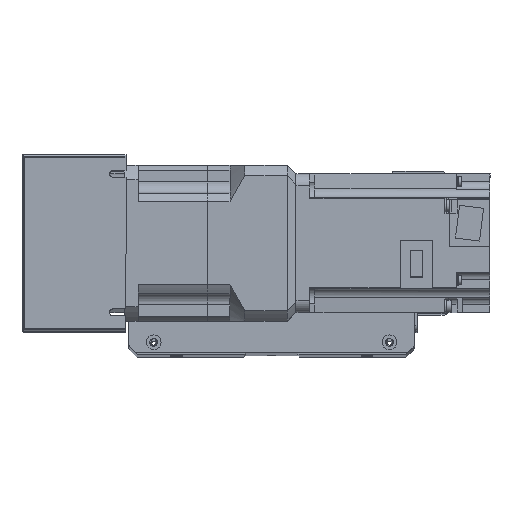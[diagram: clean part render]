
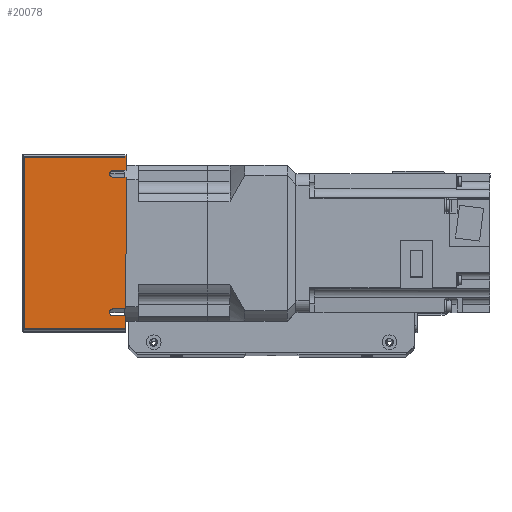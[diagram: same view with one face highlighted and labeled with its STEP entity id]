
A CAD part, top view. The second image highlights one B-rep face of the part: STEP entity #20078.
In plain terms, the highlighted planar face has unit normal (0, 0, 1) as drawn and (-1, 0, 0) by its records, which use the part's own axes.
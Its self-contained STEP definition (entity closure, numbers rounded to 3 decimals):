
#585=PLANE('',#21872);
#1673=LINE('',#32207,#3333);
#1679=LINE('',#32221,#3339);
#1691=LINE('',#32248,#3351);
#1701=LINE('',#32270,#3361);
#1709=LINE('',#32290,#3369);
#1710=LINE('',#32292,#3370);
#1711=LINE('',#32294,#3371);
#1712=LINE('',#32296,#3372);
#1713=LINE('',#32297,#3373);
#1714=LINE('',#32299,#3374);
#3333=VECTOR('',#26064,10.);
#3339=VECTOR('',#26074,10.);
#3351=VECTOR('',#26092,10.);
#3361=VECTOR('',#26106,10.);
#3369=VECTOR('',#26128,10.);
#3370=VECTOR('',#26129,10.);
#3371=VECTOR('',#26130,10.);
#3372=VECTOR('',#26131,10.);
#3373=VECTOR('',#26132,10.);
#3374=VECTOR('',#26135,10.);
#5367=FACE_OUTER_BOUND('',#6807,.T.);
#6807=EDGE_LOOP('',(#16164,#16165,#16166,#16167,#16168,#16169,#16170,#16171,
#16172,#16173,#16174,#16175));
#8243=CIRCLE('',#21867,2.);
#8247=CIRCLE('',#21873,2.);
#9680=VERTEX_POINT('',#32204);
#9681=VERTEX_POINT('',#32206);
#9686=VERTEX_POINT('',#32219);
#9687=VERTEX_POINT('',#32220);
#9698=VERTEX_POINT('',#32246);
#9699=VERTEX_POINT('',#32247);
#9708=VERTEX_POINT('',#32267);
#9709=VERTEX_POINT('',#32269);
#9714=VERTEX_POINT('',#32289);
#9715=VERTEX_POINT('',#32291);
#9716=VERTEX_POINT('',#32293);
#9717=VERTEX_POINT('',#32295);
#12031=EDGE_CURVE('',#9681,#9680,#1673,.T.);
#12037=EDGE_CURVE('',#9686,#9687,#1679,.T.);
#12049=EDGE_CURVE('',#9698,#9699,#1691,.T.);
#12059=EDGE_CURVE('',#9709,#9708,#1701,.T.);
#12061=EDGE_CURVE('',#9687,#9681,#8243,.T.);
#12071=EDGE_CURVE('',#9714,#9680,#1709,.T.);
#12072=EDGE_CURVE('',#9715,#9714,#1710,.T.);
#12073=EDGE_CURVE('',#9716,#9715,#1711,.T.);
#12074=EDGE_CURVE('',#9717,#9716,#1712,.T.);
#12075=EDGE_CURVE('',#9698,#9717,#1713,.T.);
#12076=EDGE_CURVE('',#9699,#9709,#8247,.T.);
#12077=EDGE_CURVE('',#9686,#9708,#1714,.T.);
#16164=ORIENTED_EDGE('',*,*,#12031,.T.);
#16165=ORIENTED_EDGE('',*,*,#12071,.F.);
#16166=ORIENTED_EDGE('',*,*,#12072,.F.);
#16167=ORIENTED_EDGE('',*,*,#12073,.F.);
#16168=ORIENTED_EDGE('',*,*,#12074,.F.);
#16169=ORIENTED_EDGE('',*,*,#12075,.F.);
#16170=ORIENTED_EDGE('',*,*,#12049,.T.);
#16171=ORIENTED_EDGE('',*,*,#12076,.T.);
#16172=ORIENTED_EDGE('',*,*,#12059,.T.);
#16173=ORIENTED_EDGE('',*,*,#12077,.F.);
#16174=ORIENTED_EDGE('',*,*,#12037,.T.);
#16175=ORIENTED_EDGE('',*,*,#12061,.T.);
#20078=ADVANCED_FACE('',(#5367),#585,.T.);
#21867=AXIS2_PLACEMENT_3D('',#32273,#26110,#26111);
#21872=AXIS2_PLACEMENT_3D('',#32288,#26126,#26127);
#21873=AXIS2_PLACEMENT_3D('',#32298,#26133,#26134);
#26064=DIRECTION('',(0.,0.,1.));
#26074=DIRECTION('',(0.,0.,-1.));
#26092=DIRECTION('',(0.,0.,-1.));
#26106=DIRECTION('',(0.,0.,1.));
#26110=DIRECTION('center_axis',(1.,0.,0.));
#26111=DIRECTION('ref_axis',(0.,0.,-1.));
#26126=DIRECTION('center_axis',(-1.,0.,0.));
#26127=DIRECTION('ref_axis',(0.,-1.,0.));
#26128=DIRECTION('',(0.,-1.,0.));
#26129=DIRECTION('',(0.,0.,1.));
#26130=DIRECTION('',(0.,1.,0.));
#26131=DIRECTION('',(0.,0.,-1.));
#26132=DIRECTION('',(0.,-1.,0.));
#26133=DIRECTION('center_axis',(1.,0.,0.));
#26134=DIRECTION('ref_axis',(0.,0.,-1.));
#26135=DIRECTION('',(0.,-1.,0.));
#32204=CARTESIAN_POINT('',(-120.5,42.,30.));
#32206=CARTESIAN_POINT('',(-120.5,42.,22.5));
#32207=CARTESIAN_POINT('',(-120.5,42.,16.304));
#32219=CARTESIAN_POINT('',(-120.5,38.,30.));
#32220=CARTESIAN_POINT('',(-120.5,38.,22.5));
#32221=CARTESIAN_POINT('',(-120.5,38.,11.25));
#32246=CARTESIAN_POINT('',(-120.5,-42.,30.));
#32247=CARTESIAN_POINT('',(-120.5,-42.,22.5));
#32248=CARTESIAN_POINT('',(-120.5,-42.,11.25));
#32267=CARTESIAN_POINT('',(-120.5,-38.,30.));
#32269=CARTESIAN_POINT('',(-120.5,-38.,22.5));
#32270=CARTESIAN_POINT('',(-120.5,-38.,16.169));
#32273=CARTESIAN_POINT('Origin',(-120.5,40.,22.5));
#32288=CARTESIAN_POINT('Origin',(-120.5,51.,0.));
#32289=CARTESIAN_POINT('',(-120.5,50.,30.));
#32290=CARTESIAN_POINT('',(-120.5,-51.,30.));
#32291=CARTESIAN_POINT('',(-120.5,50.,-29.));
#32292=CARTESIAN_POINT('',(-120.5,50.,0.));
#32293=CARTESIAN_POINT('',(-120.5,-50.,-29.));
#32294=CARTESIAN_POINT('',(-120.5,25.5,-29.));
#32295=CARTESIAN_POINT('',(-120.5,-50.,30.));
#32296=CARTESIAN_POINT('',(-120.5,-50.,0.));
#32297=CARTESIAN_POINT('',(-120.5,-51.,30.));
#32298=CARTESIAN_POINT('Origin',(-120.5,-40.,22.5));
#32299=CARTESIAN_POINT('',(-120.5,-51.,30.));
